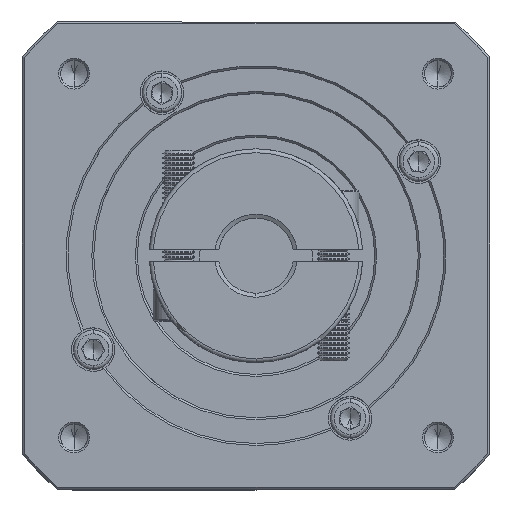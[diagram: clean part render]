
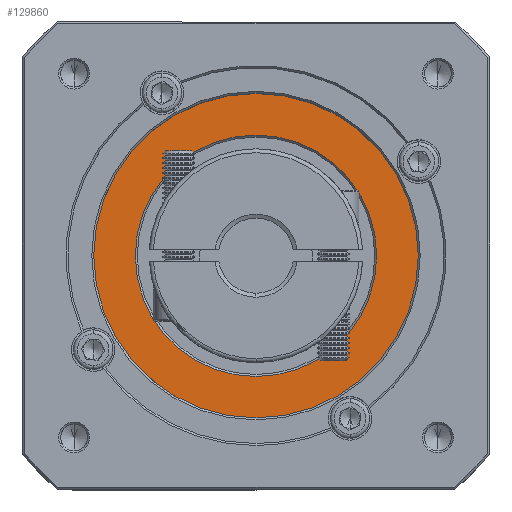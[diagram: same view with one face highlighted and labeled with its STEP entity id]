
A CAD part, top view. The second image highlights one B-rep face of the part: STEP entity #129860.
In plain terms, the highlighted planar face has unit normal (0, 0, 1).
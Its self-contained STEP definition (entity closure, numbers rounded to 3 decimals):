
#4123 = AXIS2_PLACEMENT_3D ( 'NONE', #121146, #70404, #51054 ) ;
#8122 = DIRECTION ( 'NONE',  ( -1., 0., 0. ) ) ;
#10364 = ORIENTED_EDGE ( 'NONE', *, *, #78099, .T. ) ;
#11437 = EDGE_LOOP ( 'NONE', ( #81253, #35440 ) ) ;
#16723 = DIRECTION ( 'NONE',  ( 0., 0., -1. ) ) ;
#18312 = DIRECTION ( 'NONE',  ( 0., 0., 1. ) ) ;
#31996 = CARTESIAN_POINT ( 'NONE',  ( 54.206, 51.461, -19.981 ) ) ;
#35172 = CARTESIAN_POINT ( 'NONE',  ( 54.206, 51.461, -19.981 ) ) ;
#35440 = ORIENTED_EDGE ( 'NONE', *, *, #116326, .T. ) ;
#36151 = CIRCLE ( 'NONE', #105025, 41. ) ;
#40088 = CARTESIAN_POINT ( 'NONE',  ( 54.206, 51.461, -19.981 ) ) ;
#40418 = VERTEX_POINT ( 'NONE', #106568 ) ;
#43566 = VERTEX_POINT ( 'NONE', #57175 ) ;
#46937 = CIRCLE ( 'NONE', #59403, 30.5 ) ;
#48412 = FACE_OUTER_BOUND ( 'NONE', #84062, .T. ) ;
#51054 = DIRECTION ( 'NONE',  ( 0., -1., 0. ) ) ;
#51480 = CARTESIAN_POINT ( 'NONE',  ( 54.206, 10.461, -19.981 ) ) ;
#56747 = EDGE_CURVE ( 'NONE', #96680, #40418, #36151, .T. ) ;
#57175 = CARTESIAN_POINT ( 'NONE',  ( 23.706, 51.461, -19.981 ) ) ;
#59403 = AXIS2_PLACEMENT_3D ( 'NONE', #35172, #98538, #119971 ) ;
#70404 = DIRECTION ( 'NONE',  ( 0., 0., 1. ) ) ;
#72429 = AXIS2_PLACEMENT_3D ( 'NONE', #101029, #18312, #81657 ) ;
#73274 = DIRECTION ( 'NONE',  ( 0., -1., 0. ) ) ;
#78099 = EDGE_CURVE ( 'NONE', #40418, #96680, #130475, .T. ) ;
#81042 = CIRCLE ( 'NONE', #106299, 30.5 ) ;
#81253 = ORIENTED_EDGE ( 'NONE', *, *, #112203, .T. ) ;
#81657 = DIRECTION ( 'NONE',  ( 0., -1., 0. ) ) ;
#84062 = EDGE_LOOP ( 'NONE', ( #119097, #10364 ) ) ;
#94969 = CARTESIAN_POINT ( 'NONE',  ( 84.706, 51.461, -19.981 ) ) ;
#96680 = VERTEX_POINT ( 'NONE', #51480 ) ;
#98538 = DIRECTION ( 'NONE',  ( 0., 0., -1. ) ) ;
#101029 = CARTESIAN_POINT ( 'NONE',  ( 54.206, 51.461, -19.981 ) ) ;
#105025 = AXIS2_PLACEMENT_3D ( 'NONE', #31996, #124877, #73274 ) ;
#106299 = AXIS2_PLACEMENT_3D ( 'NONE', #40088, #16723, #8122 ) ;
#106568 = CARTESIAN_POINT ( 'NONE',  ( 54.206, 92.461, -19.981 ) ) ;
#112203 = EDGE_CURVE ( 'NONE', #43566, #127507, #81042, .T. ) ;
#116326 = EDGE_CURVE ( 'NONE', #127507, #43566, #46937, .T. ) ;
#119097 = ORIENTED_EDGE ( 'NONE', *, *, #56747, .T. ) ;
#119971 = DIRECTION ( 'NONE',  ( -1., 0., 0. ) ) ;
#121146 = CARTESIAN_POINT ( 'NONE',  ( 54.206, 51.461, -19.981 ) ) ;
#121963 = PLANE ( 'NONE',  #72429 ) ;
#124877 = DIRECTION ( 'NONE',  ( 0., 0., 1. ) ) ;
#127330 = FACE_BOUND ( 'NONE', #11437, .T. ) ;
#127507 = VERTEX_POINT ( 'NONE', #94969 ) ;
#129860 = ADVANCED_FACE ( 'NONE', ( #48412, #127330 ), #121963, .T. ) ;
#130475 = CIRCLE ( 'NONE', #4123, 41. ) ;
